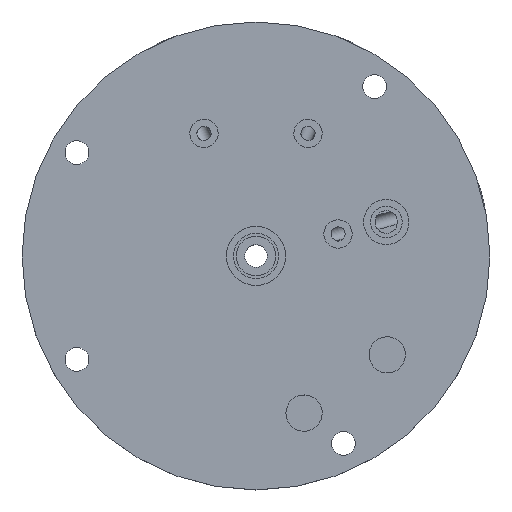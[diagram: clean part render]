
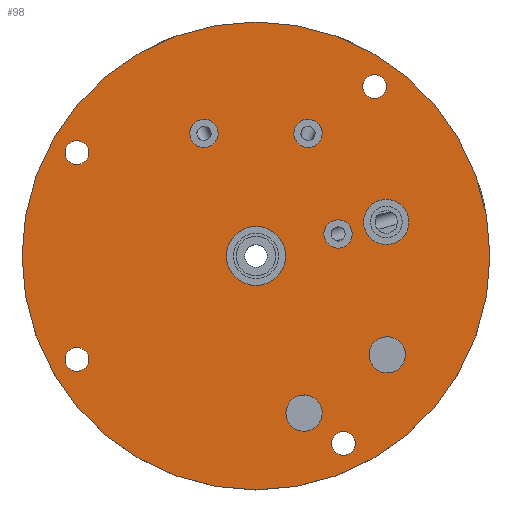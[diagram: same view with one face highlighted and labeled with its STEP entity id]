
A CAD part, top view. The second image highlights one B-rep face of the part: STEP entity #98.
In plain terms, the highlighted planar face has unit normal (0, 0, 1).
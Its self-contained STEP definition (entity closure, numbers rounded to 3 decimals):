
#98=ADVANCED_FACE('',(#232,#233,#234,#235,#236,#237,#238,#239,#240,#241,#242,#243),#244,.T.);
#232=FACE_BOUND('',#481,.T.);
#233=FACE_BOUND('',#482,.T.);
#234=FACE_BOUND('',#483,.T.);
#235=FACE_BOUND('',#484,.T.);
#236=FACE_BOUND('',#485,.T.);
#237=FACE_BOUND('',#486,.T.);
#238=FACE_BOUND('',#487,.T.);
#239=FACE_BOUND('',#488,.T.);
#240=FACE_BOUND('',#489,.T.);
#241=FACE_BOUND('',#490,.T.);
#242=FACE_BOUND('',#491,.T.);
#243=FACE_OUTER_BOUND('',#492,.T.);
#244=PLANE('',#493);
#481=EDGE_LOOP('',(#787));
#482=EDGE_LOOP('',(#788));
#483=EDGE_LOOP('',(#789));
#484=EDGE_LOOP('',(#790));
#485=EDGE_LOOP('',(#791));
#486=EDGE_LOOP('',(#792));
#487=EDGE_LOOP('',(#793));
#488=EDGE_LOOP('',(#794));
#489=EDGE_LOOP('',(#795));
#490=EDGE_LOOP('',(#796));
#491=EDGE_LOOP('',(#797));
#492=EDGE_LOOP('',(#798));
#493=AXIS2_PLACEMENT_3D('',#799,#800,#801);
#787=ORIENTED_EDGE('',*,*,#1243,.T.);
#788=ORIENTED_EDGE('',*,*,#1244,.T.);
#789=ORIENTED_EDGE('',*,*,#1245,.F.);
#790=ORIENTED_EDGE('',*,*,#1246,.T.);
#791=ORIENTED_EDGE('',*,*,#1247,.F.);
#792=ORIENTED_EDGE('',*,*,#1220,.F.);
#793=ORIENTED_EDGE('',*,*,#1221,.T.);
#794=ORIENTED_EDGE('',*,*,#1225,.T.);
#795=ORIENTED_EDGE('',*,*,#1229,.T.);
#796=ORIENTED_EDGE('',*,*,#1233,.T.);
#797=ORIENTED_EDGE('',*,*,#1242,.T.);
#798=ORIENTED_EDGE('',*,*,#1248,.T.);
#799=CARTESIAN_POINT('',(0.0,0.622,-106.));
#800=DIRECTION('',(0.0,0.0,1.0));
#801=DIRECTION('',(1.0,0.0,0.0));
#1220=EDGE_CURVE('',#1376,#1376,#1377,.T.);
#1221=EDGE_CURVE('',#1378,#1378,#1379,.T.);
#1225=EDGE_CURVE('',#1386,#1386,#1387,.T.);
#1229=EDGE_CURVE('',#1394,#1394,#1395,.T.);
#1233=EDGE_CURVE('',#1402,#1402,#1403,.T.);
#1242=EDGE_CURVE('',#1420,#1420,#1421,.T.);
#1243=EDGE_CURVE('',#1422,#1422,#1423,.T.);
#1244=EDGE_CURVE('',#1424,#1424,#1425,.T.);
#1245=EDGE_CURVE('',#1426,#1426,#1427,.T.);
#1246=EDGE_CURVE('',#1428,#1428,#1429,.T.);
#1247=EDGE_CURVE('',#1430,#1430,#1431,.T.);
#1248=EDGE_CURVE('',#1432,#1432,#1433,.T.);
#1376=VERTEX_POINT('',#1777);
#1377=CIRCLE('',#1778,2.5);
#1378=VERTEX_POINT('',#1779);
#1379=CIRCLE('',#1780,2.1);
#1386=VERTEX_POINT('',#1787);
#1387=CIRCLE('',#1788,2.1);
#1394=VERTEX_POINT('',#1795);
#1395=CIRCLE('',#1796,2.1);
#1402=VERTEX_POINT('',#1803);
#1403=CIRCLE('',#1804,2.1);
#1420=VERTEX_POINT('',#1821);
#1421=CIRCLE('',#1822,5.2);
#1422=VERTEX_POINT('',#1823);
#1423=CIRCLE('',#1824,3.2);
#1424=VERTEX_POINT('',#1825);
#1425=CIRCLE('',#1826,3.2);
#1426=VERTEX_POINT('',#1827);
#1427=CIRCLE('',#1828,2.5);
#1428=VERTEX_POINT('',#1829);
#1429=CIRCLE('',#1830,4.0);
#1430=VERTEX_POINT('',#1831);
#1431=CIRCLE('',#1832,2.5);
#1432=VERTEX_POINT('',#1833);
#1433=CIRCLE('',#1834,41.3);
#1777=CARTESIAN_POINT('',(8.205,19.952,-106.));
#1778=AXIS2_PLACEMENT_3D('',#2303,#2304,#2305);
#1779=CARTESIAN_POINT('',(15.426,-30.358,-106.));
#1780=AXIS2_PLACEMENT_3D('',#2306,#2307,#2308);
#1787=CARTESIAN_POINT('',(20.936,32.621,-106.));
#1788=AXIS2_PLACEMENT_3D('',#2318,#2319,#2320);
#1795=CARTESIAN_POINT('',(-31.61,20.972,-106.));
#1796=AXIS2_PLACEMENT_3D('',#2330,#2331,#2332);
#1803=CARTESIAN_POINT('',(-31.61,-15.528,-106.));
#1804=AXIS2_PLACEMENT_3D('',#2342,#2343,#2344);
#1821=CARTESIAN_POINT('',(5.2,0.622,-106.));
#1822=AXIS2_PLACEMENT_3D('',#2369,#2370,#2371);
#1823=CARTESIAN_POINT('',(5.419,-28.047,-106.));
#1824=AXIS2_PLACEMENT_3D('',#2372,#2373,#2374);
#1825=CARTESIAN_POINT('',(21.235,-19.386,-106.));
#1826=AXIS2_PLACEMENT_3D('',#2375,#2376,#2377);
#1827=CARTESIAN_POINT('',(12.074,3.857,-106.));
#1828=AXIS2_PLACEMENT_3D('',#2378,#2379,#2380);
#1829=CARTESIAN_POINT('',(27.0,6.622,-106.));
#1830=AXIS2_PLACEMENT_3D('',#2381,#2382,#2383);
#1831=CARTESIAN_POINT('',(-8.205,19.952,-106.));
#1832=AXIS2_PLACEMENT_3D('',#2384,#2385,#2386);
#1833=CARTESIAN_POINT('',(41.3,0.622,-106.));
#1834=AXIS2_PLACEMENT_3D('',#2387,#2388,#2389);
#2303=CARTESIAN_POINT('',(9.182,22.254,-106.));
#2304=DIRECTION('',(0.,0.,1.0));
#2305=DIRECTION('',(-0.391,-0.921,0.));
#2306=CARTESIAN_POINT('',(15.426,-32.458,-106.));
#2307=DIRECTION('',(0.0,0.,-1.0));
#2308=DIRECTION('',(0.0,1.0,0.));
#2318=CARTESIAN_POINT('',(20.936,30.521,-106.));
#2319=DIRECTION('',(0.0,0.,-1.0));
#2320=DIRECTION('',(0.0,1.0,0.));
#2330=CARTESIAN_POINT('',(-31.61,18.872,-106.));
#2331=DIRECTION('',(0.0,0.,-1.0));
#2332=DIRECTION('',(0.0,1.0,0.));
#2342=CARTESIAN_POINT('',(-31.61,-17.628,-106.));
#2343=DIRECTION('',(0.0,0.,-1.0));
#2344=DIRECTION('',(0.0,1.0,0.));
#2369=CARTESIAN_POINT('',(0.0,0.622,-106.));
#2370=DIRECTION('',(0.0,0.0,-1.0));
#2371=DIRECTION('',(1.0,0.0,0.0));
#2372=CARTESIAN_POINT('',(8.479,-27.111,-106.));
#2373=DIRECTION('',(-0.0,0.0,-1.0));
#2374=DIRECTION('',(-0.956,-0.292,0.0));
#2375=CARTESIAN_POINT('',(23.16,-16.831,-106.));
#2376=DIRECTION('',(-0.0,0.0,-1.0));
#2377=DIRECTION('',(-0.602,-0.799,0.0));
#2378=CARTESIAN_POINT('',(14.489,4.504,-106.));
#2379=DIRECTION('',(0.,0.,1.0));
#2380=DIRECTION('',(-0.966,-0.259,0.));
#2381=CARTESIAN_POINT('',(23.0,6.622,-106.));
#2382=DIRECTION('',(0.0,0.0,-1.0));
#2383=DIRECTION('',(1.0,0.0,0.0));
#2384=CARTESIAN_POINT('',(-9.182,22.254,-106.));
#2385=DIRECTION('',(0.,0.,1.0));
#2386=DIRECTION('',(0.391,-0.921,0.));
#2387=CARTESIAN_POINT('',(0.0,0.622,-106.));
#2388=DIRECTION('',(0.0,0.0,1.0));
#2389=DIRECTION('',(1.0,0.0,0.0));
